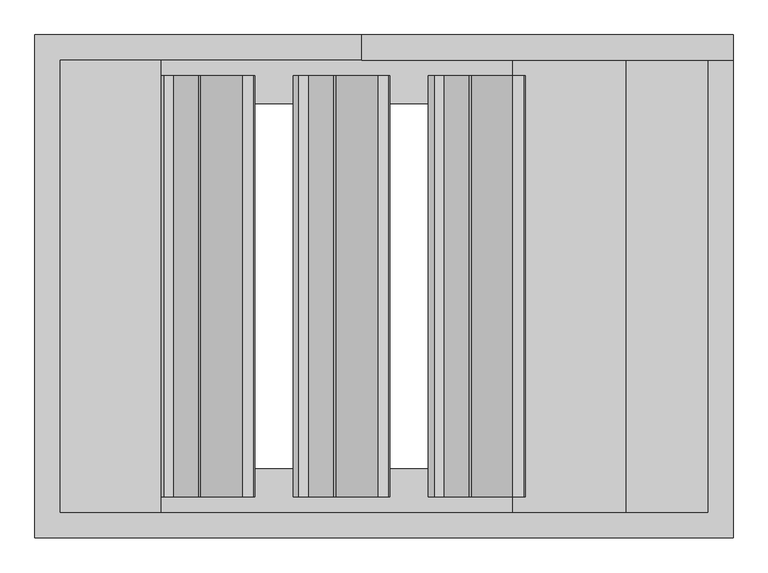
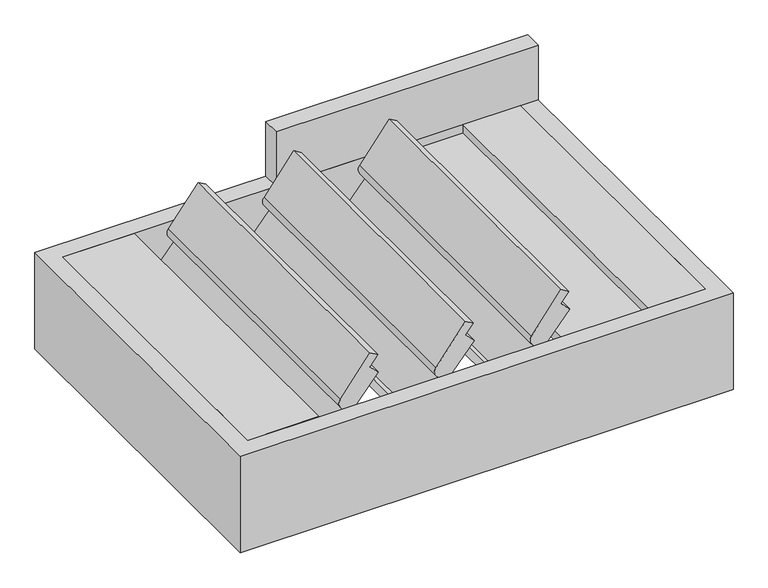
"""IFC4 building model written with IfcOpenShell, lengths in millimetres: proxy geometry, Renson_Aero_Patio covers : Aero - Single."""

from ifc_helpers import new_model, si_unit, point, frame, frame_2d, origin, origin_with_axes, place, context, project, spatial, polyline, circle_curve, trimmed, segment, composite_curve, outline, extrude, faceted_brep, source, transform, mapped, element, save


def generic_models_86b0b980(model_context):
    return source(origin(), model_context, "Body", "SolidModel", [
        extrude(outline(composite_curve([segment(polyline([(38.6941425, 9.2171246), (58.328832, -10.4175649), (81.3082125, 7.056362), (91.2056128, -10.0864383), (3.54674, -76.7437941)]), True, "CONTINUOUS"), segment(trimmed(circle_curve(frame_2d((-5.5326698, -64.803764)), 15.0), [point((3.54674, -76.7437941))], [point((-15.174484, -76.2944307))], False, "CARTESIAN"), True, "CONTINUOUS"), segment(polyline([(-15.174484, -76.2944307), (-30.1324311, -63.7432228), (-97.3419348, -120.1386925), (-88.6707887, -135.157558), (-100.8453082, -144.4152777), (-120.7163908, -124.5441951), (38.6941425, 9.2171246)]), True, "CONTINUOUS")], self_intersect=False)), frame((0.0, -335.0, 0.0), z_axis=(0.0, 1.0, 0.0), x_axis=(0.0, 0.0, 1.0)), (0.0, 0.0, 1.0), 670.0),
        extrude(outline(composite_curve([segment(polyline([(38.6941425, 224.3035629), (58.328832, 204.6688733), (81.3082125, 222.1428003), (91.2056128, 205.0), (3.54674, 138.3426442)]), True, "CONTINUOUS"), segment(trimmed(circle_curve(frame_2d((-5.5326698, 150.2826742)), 15.0), [point((3.54674, 138.3426442))], [point((-15.174484, 138.7920076))], False, "CARTESIAN"), True, "CONTINUOUS"), segment(polyline([(-15.174484, 138.7920076), (-30.1324311, 151.3432155), (-97.3419348, 94.9477457), (-88.6707887, 79.9288802), (-100.8453082, 70.6711605), (-120.7163908, 90.5422432), (38.6941425, 224.3035629)]), True, "CONTINUOUS")], self_intersect=False)), frame((0.0, -335.0, 0.0), z_axis=(0.0, 1.0, 0.0), x_axis=(0.0, 0.0, 1.0)), (0.0, 0.0, 1.0), 670.0),
        extrude(outline(composite_curve([segment(polyline([(38.6941425, -205.8693136), (58.328832, -225.5040032), (81.3082125, -208.0300762), (91.2056128, -225.1728765), (3.54674, -291.8302323)]), True, "CONTINUOUS"), segment(trimmed(circle_curve(frame_2d((-5.5326698, -279.8902023)), 15.0), [point((3.54674, -291.8302323))], [point((-15.174484, -291.3808689))], False, "CARTESIAN"), True, "CONTINUOUS"), segment(polyline([(-15.174484, -291.3808689), (-30.1324311, -278.829661), (-97.3419348, -335.2251308), (-88.6707887, -350.2439963), (-100.8453082, -359.501716), (-120.7163908, -339.6306333), (38.6941425, -205.8693136)]), True, "CONTINUOUS")], self_intersect=False)), frame((0.0, -335.0, 0.0), z_axis=(0.0, 1.0, 0.0), x_axis=(0.0, 0.0, 1.0)), (0.0, 0.0, 1.0), 670.0),
        extrude(outline(polyline([(-63.35, 515.0), (0.0, 515.0), (0.0, 385.5), (-20.0, 385.5), (-20.0, 205.0), (-44.0, 205.0), (-44.0, 355.0), (-63.35, 355.0), (-63.35, 515.0)])), frame((0.0, -360.0, 0.0), z_axis=(0.0, 1.0, 0.0), x_axis=(0.0, 0.0, 1.0)), (0.0, 0.0, 1.0), 720.0),
        extrude(outline(polyline([(0.0, -355.0), (0.0, -515.0), (-44.0, -515.0), (-44.0, -382.3193336), (-10.8283397, -379.4171894), (-9.655498, -355.0), (0.0, -355.0)])), frame((0.0, -360.0, 0.0), z_axis=(0.0, 1.0, 0.0), x_axis=(0.0, 0.0, 1.0)), (0.0, 0.0, 1.0), 720.0),
        extrude(outline(polyline([(555.0, 400.0), (555.0, 360.0), (-35.0, 360.0), (-35.0, 400.0), (555.0, 400.0)])), origin_with_axes(), (0.0, 0.0, 1.0), 130.0),
        faceted_brep([(-515.0, 360.0, 0.0), (-515.0, 360.0, -173.0), (515.0, 360.0, -173.0), (515.0, 360.0, 0.0), (-555.0, 400.0, -230.0), (-555.0, 400.0, 0.0), (555.0, 400.0, 0.0), (555.0, 400.0, -230.0), (-445.0, 290.0, -173.0), (-445.0, 290.0, -230.0), (445.0, 290.0, -230.0), (445.0, 290.0, -173.0), (515.0, -360.0, -173.0), (515.0, -360.0, 0.0), (555.0, -400.0, 0.0), (555.0, -400.0, -230.0), (445.0, -290.0, -230.0), (445.0, -290.0, -173.0), (-515.0, -360.0, -173.0), (-515.0, -360.0, 0.0), (-555.0, -400.0, 0.0), (-555.0, -400.0, -230.0), (-445.0, -290.0, -230.0), (-445.0, -290.0, -173.0)], [[[0, 1, 2, 3]], [[4, 5, 6, 7]], [[8, 9, 10, 11]], [[3, 2, 12, 13]], [[7, 6, 14, 15]], [[11, 10, 16, 17]], [[13, 12, 18, 19]], [[15, 14, 20, 21]], [[17, 16, 22, 23]], [[19, 18, 1, 0]], [[5, 20, 14, 6], [3, 13, 19, 0]], [[21, 20, 5, 4]], [[7, 15, 21, 4], [9, 22, 16, 10]], [[23, 22, 9, 8]], [[1, 18, 12, 2], [11, 17, 23, 8]]]),
    ])


if __name__ == "__main__":
    model = new_model("IFC4")
    model_context = context("Model", 3, world=origin())
    ifc_project = project(units=[si_unit("LENGTHUNIT", "METRE", prefix="MILLI")], contexts=[model_context])
    site = spatial("IfcSite", under=ifc_project)
    building = spatial("IfcBuilding", under=site)
    placement = place(None, origin())
    generic_models_shape = generic_models_86b0b980(model_context)
    element("IfcBuildingElementProxy", 1, Name="Renson_Aero_Patio covers : Aero - Single", ObjectType="Renson_Aero_Patio covers : Aero - Single", at=placement, inside=building, context=model_context, shape_type="MappedRepresentation", body=[
        mapped(generic_models_shape, transform((0.0, 0.0, 0.0), x_axis=(1.0, 0.0, 0.0), y_axis=(0.0, 1.0, 0.0), z_axis=(0.0, 0.0, 1.0))),
    ])
    save(model, "model.ifc")
